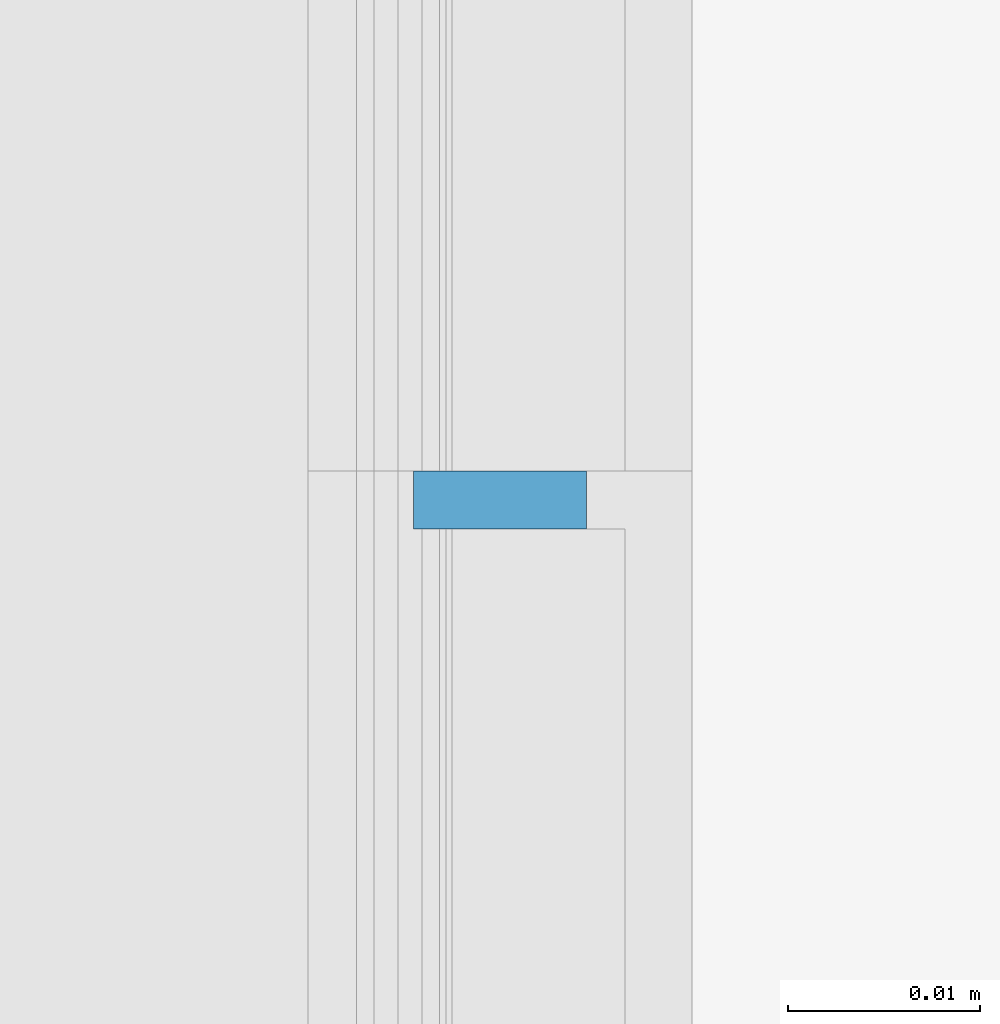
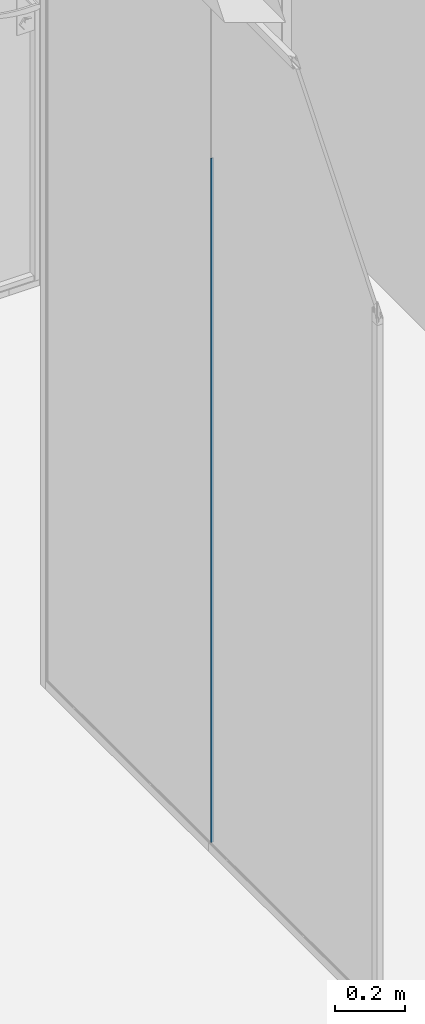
# One storey, part 3 of 387: 1 member, 1 element without a shape of its own.
"""IFC2X3 building model written with IfcOpenShell, lengths in millimetres."""

from ifc_helpers import new_model, entity, si_unit, converted_unit, derived_unit, money_unit, direction, frame, origin_with_axes, place, context, subcontext, project, spatial, polyline, outline, extrude, material, type_object, element, aggregate, save


model = new_model("IFC2X3")

# Units and contexts
model_context = context("Model", 3, precision=0.01, world=origin_with_axes(), true_north=direction((0.0, 1.0)))
body_context = subcontext(model_context, "Body", "Model", "MODEL_VIEW")
ifc_project = project(units=[si_unit("LENGTHUNIT", "METRE", prefix="MILLI"), si_unit("AREAUNIT", "SQUARE_METRE"), si_unit("VOLUMEUNIT", "CUBIC_METRE"), converted_unit("PLANEANGLEUNIT", "DEGREE", entity("IfcPlaneAngleMeasure", 0.0174532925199), si_unit("PLANEANGLEUNIT", "RADIAN"), dimensions=[0, 0, 0, 0, 0, 0, 0]), si_unit("SOLIDANGLEUNIT", "STERADIAN"), money_unit("EUR"), converted_unit("TIMEUNIT", "Year", entity("IfcTimeMeasure", 31556926.0), si_unit("TIMEUNIT", "SECOND"), dimensions=[0, 0, 1, 0, 0, 0, 0]), si_unit("MASSUNIT", "GRAM", prefix="KILO"), si_unit("THERMODYNAMICTEMPERATUREUNIT", "DEGREE_CELSIUS"), si_unit("LUMINOUSINTENSITYUNIT", "LUMEN"), si_unit("ENERGYUNIT", "JOULE", prefix="MEGA"), derived_unit("THERMALCONDUCTANCEUNIT", [(si_unit("POWERUNIT", "WATT"), 1), (si_unit("LENGTHUNIT", "METRE"), -1), (si_unit("THERMODYNAMICTEMPERATUREUNIT", "KELVIN"), -1)]), derived_unit("SPECIFICHEATCAPACITYUNIT", [(si_unit("ENERGYUNIT", "JOULE"), 1), (si_unit("MASSUNIT", "GRAM", prefix="KILO"), -1), (si_unit("THERMODYNAMICTEMPERATUREUNIT", "KELVIN"), -1)]), derived_unit("MASSDENSITYUNIT", [(si_unit("MASSUNIT", "GRAM", prefix="KILO"), 1), (si_unit("VOLUMEUNIT", "CUBIC_METRE"), -1)])], contexts=[model_context])

# Site, building, storey
site_placement = place(None, origin_with_axes())
site = spatial("IfcSite", under=ifc_project, at=site_placement, Name="Puškini 31, Narva", CompositionType="ELEMENT")
building_placement = place(site_placement, origin_with_axes())
building = spatial("IfcBuilding", under=site, at=building_placement, Name="Narva Riigigümnaasium", CompositionType="ELEMENT")
storey_placement = place(building_placement, frame((0.0, 0.0, 2640.0), z_axis=(0.0, 0.0, 1.0), x_axis=(1.0, 0.0, 0.0)))
storey = spatial("IfcBuildingStorey", under=building, at=storey_placement, Name="2.korrus +2.64", CompositionType="ELEMENT", Elevation=2640.0)

# Curtain wall, member
curtain_wall_type = type_object("IfcCurtainWallType", Name="Curtain Wall Type", PredefinedType="NOTDEFINED")
curtain_wall_placement = place(storey_placement, frame((28389.9972784, 170114.499914, -5.2224053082e-05), z_axis=(0.0, 0.0, 1.0), x_axis=(1.0, 0.0, 0.0)))
curtain_wall = element("IfcCurtainWall", 1, at=curtain_wall_placement, inside=storey, type_object=curtain_wall_type, Name="G-SKLF-15.2")
ifc_material = material(Name="VMR-03_Membraan - Veekindel")
member_type = type_object("IfcMemberType", Name="3 x 5", PredefinedType="MULLION")
member_placement = place(curtain_wall_placement, frame((1.76108017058e-08, 660.50001258, 0.0), z_axis=(0.0, 0.0, 1.0), x_axis=(0.0, -1.0, 0.0)))
member = element("IfcMember", 2, at=member_placement, type_object=member_type, material=ifc_material, Name="Frame-Siseklaasf-069", ObjectType="MULLION", context=body_context, shape_type="SweptSolid", body=[
    extrude(outline(polyline([(4.5, -1.13686837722e-10), (-4.5, 0.0), (-4.50000000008, -2.9999999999), (4.49999999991, -3.00000000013), (4.5, -1.13686837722e-10)])), frame((0.0, 0.0, 30.0), z_axis=(0.0, 0.0, 1.0), x_axis=(0.0, 1.0, 0.0)), (0.0, 0.0, 1.0), 2370.00005222),
])
aggregate(curtain_wall, [member])

save(model, "model.ifc")
